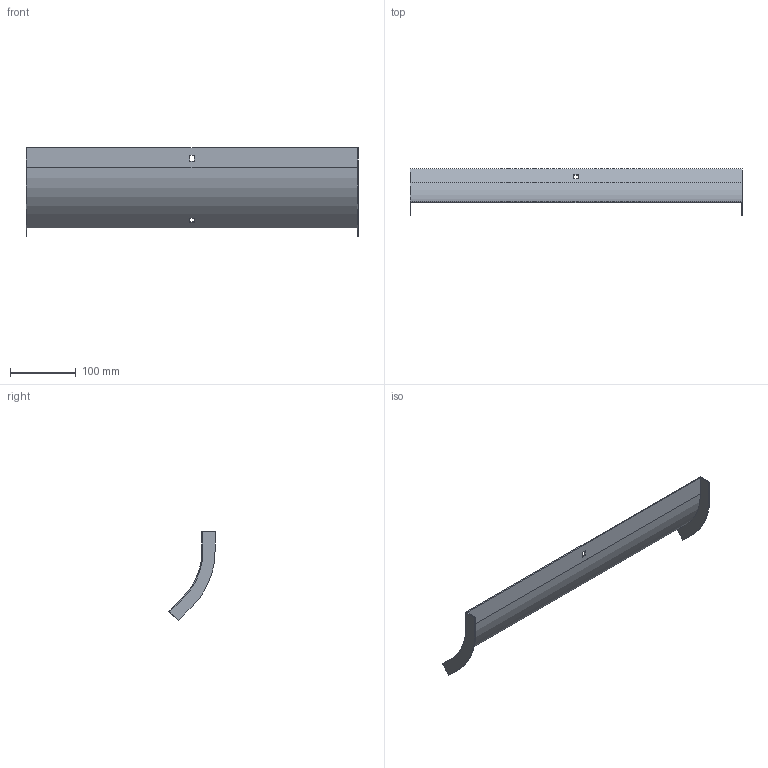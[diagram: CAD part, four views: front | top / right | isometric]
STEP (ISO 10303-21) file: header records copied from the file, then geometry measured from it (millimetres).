
FILE_DESCRIPTION (( 'STEP AP214' ), '1' );
FILE_NAME ('31G1P500.step', '2025-02-21T12:48:05', ( '' ), ( '' ), 'SwSTEP 2.0', 'SolidWorks 2023', '' );
FILE_SCHEMA (( 'AUTOMOTIVE_DESIGN' ));
Length unit declared in the file: millimetre
Products named in the file (1): 31G1P500
Bounding box: 504 x 70.06 x 135.01 mm (x, y, z)
Volume: 112207.4 mm3; surface area: 151783.4 mm2
Topology: 1 solids, 1 shells, 26 faces, 72 edges, 48 vertices
Faces by surface type: plane 22, cylinder 4
Entity records: 855 total; most frequent: CARTESIAN_POINT 147, ORIENTED_EDGE 144, DIRECTION 134, EDGE_CURVE 72, LINE 64, VECTOR 64, VERTEX_POINT 48, AXIS2_PLACEMENT_3D 35
